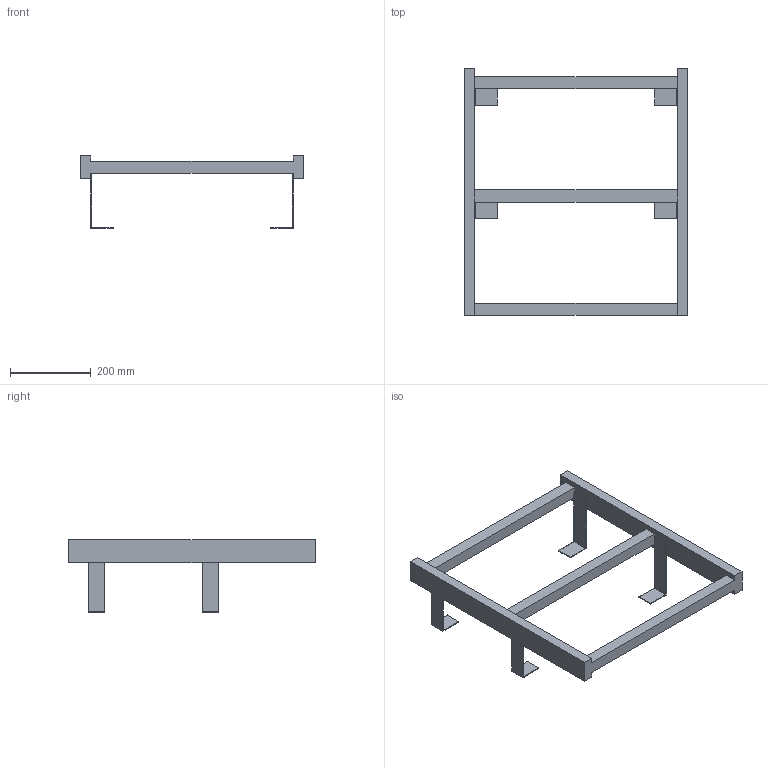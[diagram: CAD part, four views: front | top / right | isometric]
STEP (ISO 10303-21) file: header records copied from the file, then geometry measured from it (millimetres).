
FILE_DESCRIPTION((''),'2;1');
FILE_NAME('52311174','2024-10-17T13:37:50',('wep'),('HUBER SE'),'CREO PARAMETRIC BY PTC INC, 2022162','CREO PARAMETRIC BY PTC INC, 2022162','');
FILE_SCHEMA(('AUTOMOTIVE_DESIGN { 1 0 10303 214 1 1 1 1 }'));
Length unit declared in the file: millimetre
Products named in the file (1): 52311174
Bounding box: 550 x 610 x 178.5 mm (x, y, z)
Volume: 3153460 mm3; surface area: 439868 mm2
Topology: 1 solids, 1 shells, 54 faces, 156 edges, 100 vertices
Faces by surface type: plane 54
Entity records: 2301 total; most frequent: CARTESIAN_POINT 312, ORIENTED_EDGE 312, DIRECTION 264, VECTOR 156, LINE 156, EDGE_CURVE 156, COLOUR_RGB 106, VERTEX_POINT 100
